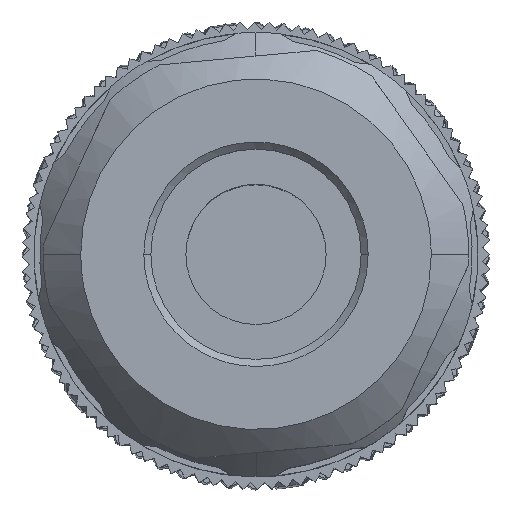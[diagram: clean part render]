
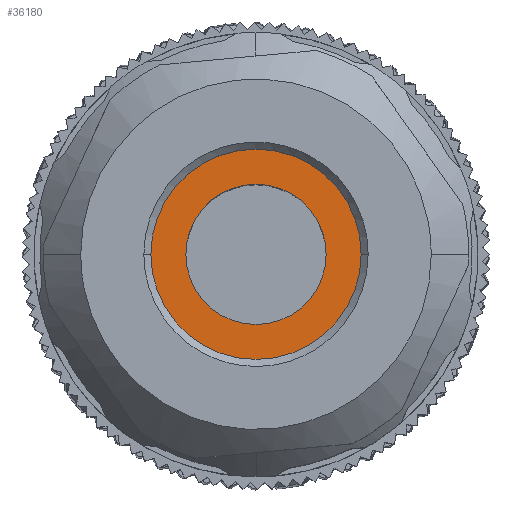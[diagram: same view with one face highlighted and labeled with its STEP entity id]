
A CAD part, top view. The second image highlights one B-rep face of the part: STEP entity #36180.
In plain terms, the highlighted planar face has unit normal (0, 0, 1).
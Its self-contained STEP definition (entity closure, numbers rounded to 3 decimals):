
#162 = EDGE_CURVE ( 'NONE', #58356, #48405, #44204, .T. ) ;
#701 = EDGE_CURVE ( 'NONE', #45619, #58944, #48024, .T. ) ;
#946 = EDGE_CURVE ( 'NONE', #60960, #45619, #43225, .T. ) ;
#976 = CARTESIAN_POINT ( 'NONE',  ( 5.401, 14.077, 62.549 ) ) ;
#2322 = CARTESIAN_POINT ( 'NONE',  ( 5.846, 9.2, 62.549 ) ) ;
#3271 = CARTESIAN_POINT ( 'NONE',  ( 0.658, 12.858, 62.549 ) ) ;
#3675 = CARTESIAN_POINT ( 'NONE',  ( 2.486, 18.013, 62.549 ) ) ;
#3879 = CARTESIAN_POINT ( 'NONE',  ( 0.535, 14.631, 62.549 ) ) ;
#3960 = EDGE_LOOP ( 'NONE', ( #5840, #12159, #23576, #49889 ) ) ;
#4872 = ORIENTED_EDGE ( 'NONE', *, *, #162, .F. ) ;
#5840 = ORIENTED_EDGE ( 'NONE', *, *, #13513, .F. ) ;
#6184 = CARTESIAN_POINT ( 'NONE',  ( 6.953, 18.766, 62.549 ) ) ;
#6670 = CARTESIAN_POINT ( 'NONE',  ( 10.088, 12.653, 62.549 ) ) ;
#6865 = CARTESIAN_POINT ( 'NONE',  ( 7.146, 9.501, 62.549 ) ) ;
#7365 = FACE_BOUND ( 'NONE', #32361, .T. ) ;
#7883 = DIRECTION ( 'NONE',  ( 1., 0., 0. ) ) ;
#8028 = CARTESIAN_POINT ( 'NONE',  ( 3.657, 18.654, 62.549 ) ) ;
#8084 = CARTESIAN_POINT ( 'NONE',  ( 5.401, 14.077, 62.549 ) ) ;
#11626 = CARTESIAN_POINT ( 'NONE',  ( 9.383, 16.895, 62.549 ) ) ;
#11642 = CARTESIAN_POINT ( 'NONE',  ( 6.29, 9.261, 62.549 ) ) ;
#11904 = CARTESIAN_POINT ( 'NONE',  ( 5.401, 9.2, 62.549 ) ) ;
#12100 = CARTESIAN_POINT ( 'NONE',  ( 1.42, 11.26, 62.549 ) ) ;
#12159 = ORIENTED_EDGE ( 'NONE', *, *, #701, .F. ) ;
#13227 = CARTESIAN_POINT ( 'NONE',  ( 1.532, 17.08, 62.549 ) ) ;
#13425 = CARTESIAN_POINT ( 'NONE',  ( 0.566, 13.297, 62.549 ) ) ;
#13513 = EDGE_CURVE ( 'NONE', #58944, #14451, #19503, .T. ) ;
#14451 = VERTEX_POINT ( 'NONE', #57713 ) ;
#15894 = DIRECTION ( 'NONE',  ( 0., 0., 1. ) ) ;
#16314 = FACE_OUTER_BOUND ( 'NONE', #3960, .T. ) ;
#17257 = CIRCLE ( 'NONE', #45234, 3. ) ;
#17361 = CARTESIAN_POINT ( 'NONE',  ( 4.513, 18.894, 62.549 ) ) ;
#17977 = CARTESIAN_POINT ( 'NONE',  ( 1.273, 16.713, 62.549 ) ) ;
#19503 = B_SPLINE_CURVE_WITH_KNOTS ( 'NONE', 3,
 ( #11904, #44978, #49790, #21411, #54519, #12100 ),
 .UNSPECIFIED., .F., .F.,
 ( 4, 2, 4 ),
 ( 0., 0.5, 1. ),
 .UNSPECIFIED. ) ;
#20743 = CARTESIAN_POINT ( 'NONE',  ( 10.145, 15.297, 62.549 ) ) ;
#21150 = CARTESIAN_POINT ( 'NONE',  ( 5.401, 9.2, 62.549 ) ) ;
#21411 = CARTESIAN_POINT ( 'NONE',  ( 2.47, 10.102, 62.549 ) ) ;
#21486 = CARTESIAN_POINT ( 'NONE',  ( 5.401, 18.955, 62.549 ) ) ;
#23576 = ORIENTED_EDGE ( 'NONE', *, *, #946, .F. ) ;
#23913 = ORIENTED_EDGE ( 'NONE', *, *, #51082, .F. ) ;
#24784 = DIRECTION ( 'NONE',  ( 1., 0., 0. ) ) ;
#25725 = CARTESIAN_POINT ( 'NONE',  ( 7.557, 9.679, 62.549 ) ) ;
#25898 = EDGE_CURVE ( 'NONE', #14451, #60960, #50952, .T. ) ;
#27480 = CARTESIAN_POINT ( 'NONE',  ( 4.957, 18.955, 62.549 ) ) ;
#27686 = CARTESIAN_POINT ( 'NONE',  ( 1.163, 11.622, 62.549 ) ) ;
#28429 = AXIS2_PLACEMENT_3D ( 'NONE', #976, #15894, #24784 ) ;
#29767 = CARTESIAN_POINT ( 'NONE',  ( 8.332, 18.053, 62.549 ) ) ;
#30449 = CARTESIAN_POINT ( 'NONE',  ( 9.938, 12.23, 62.549 ) ) ;
#30656 = CARTESIAN_POINT ( 'NONE',  ( 9.64, 16.532, 62.549 ) ) ;
#30874 = CARTESIAN_POINT ( 'NONE',  ( 10.298, 13.971, 62.549 ) ) ;
#32361 = EDGE_LOOP ( 'NONE', ( #4872, #23913 ) ) ;
#32444 = CARTESIAN_POINT ( 'NONE',  ( 0.715, 15.501, 62.549 ) ) ;
#34310 = CARTESIAN_POINT ( 'NONE',  ( 8.935, 17.528, 62.549 ) ) ;
#36180 = ADVANCED_FACE ( 'NONE', ( #16314, #7365 ), #40344, .F. ) ;
#36447 = CARTESIAN_POINT ( 'NONE',  ( 5.401, 18.955, 62.549 ) ) ;
#36962 = CARTESIAN_POINT ( 'NONE',  ( 3.245, 18.475, 62.549 ) ) ;
#39730 = CARTESIAN_POINT ( 'NONE',  ( 9.271, 11.074, 62.549 ) ) ;
#40344 = PLANE ( 'NONE',  #59153 ) ;
#40942 = CARTESIAN_POINT ( 'NONE',  ( 5.401, 14.077, 62.549 ) ) ;
#41094 = CARTESIAN_POINT ( 'NONE',  ( 1.42, 11.26, 62.549 ) ) ;
#41508 = CARTESIAN_POINT ( 'NONE',  ( 0.505, 14.183, 62.549 ) ) ;
#43225 = B_SPLINE_CURVE_WITH_KNOTS ( 'NONE', 3,
 ( #21486, #59357, #6184, #29767, #34310, #43828 ),
 .UNSPECIFIED., .F., .F.,
 ( 4, 2, 4 ),
 ( 0., 0.5, 1. ),
 .UNSPECIFIED. ) ;
#43289 = CARTESIAN_POINT ( 'NONE',  ( 9.383, 16.895, 62.549 ) ) ;
#43828 = CARTESIAN_POINT ( 'NONE',  ( 9.383, 16.895, 62.549 ) ) ;
#44204 = CIRCLE ( 'NONE', #28429, 3. ) ;
#44717 = CARTESIAN_POINT ( 'NONE',  ( 9.529, 11.441, 62.549 ) ) ;
#44978 = CARTESIAN_POINT ( 'NONE',  ( 4.625, 9.2, 62.549 ) ) ;
#45234 = AXIS2_PLACEMENT_3D ( 'NONE', #8084, #60220, #7883 ) ;
#45619 = VERTEX_POINT ( 'NONE', #11626 ) ;
#46733 = CARTESIAN_POINT ( 'NONE',  ( 8.401, 14.077, 62.549 ) ) ;
#48024 = B_SPLINE_CURVE_WITH_KNOTS ( 'NONE', 3,
 ( #43289, #30656, #49123, #20743, #54067, #30874, #58612, #6670, #30449, #44717, #39730, #49331, #53866, #25725, #6865, #11642, #2322, #21150 ),
 .UNSPECIFIED., .F., .F.,
 ( 4, 2, 2, 2, 2, 2, 2, 2, 4 ),
 ( 0., 0.125, 0.25, 0.375, 0.5, 0.625, 0.75, 0.875, 1. ),
 .UNSPECIFIED. ) ;
#48405 = VERTEX_POINT ( 'NONE', #53182 ) ;
#49123 = CARTESIAN_POINT ( 'NONE',  ( 9.846, 16.134, 62.549 ) ) ;
#49331 = CARTESIAN_POINT ( 'NONE',  ( 8.664, 10.425, 62.549 ) ) ;
#49790 = CARTESIAN_POINT ( 'NONE',  ( 3.849, 9.388, 62.549 ) ) ;
#49889 = ORIENTED_EDGE ( 'NONE', *, *, #25898, .F. ) ;
#49929 = DIRECTION ( 'NONE',  ( 0., 0., -1. ) ) ;
#50217 = CARTESIAN_POINT ( 'NONE',  ( 5.401, 9.2, 62.549 ) ) ;
#50468 = CARTESIAN_POINT ( 'NONE',  ( 5.401, 18.955, 62.549 ) ) ;
#50537 = DIRECTION ( 'NONE',  ( 0., 1., 0. ) ) ;
#50952 = B_SPLINE_CURVE_WITH_KNOTS ( 'NONE', 3,
 ( #41094, #27686, #59959, #3271, #13425, #41508, #3879, #32444, #51315, #17977, #13227, #60382, #3675, #36962, #8028, #17361, #27480, #50468 ),
 .UNSPECIFIED., .F., .F.,
 ( 4, 2, 2, 2, 2, 2, 2, 2, 4 ),
 ( 0., 0.125, 0.25, 0.375, 0.5, 0.625, 0.75, 0.875, 1. ),
 .UNSPECIFIED. ) ;
#51082 = EDGE_CURVE ( 'NONE', #48405, #58356, #17257, .T. ) ;
#51315 = CARTESIAN_POINT ( 'NONE',  ( 0.865, 15.924, 62.549 ) ) ;
#53182 = CARTESIAN_POINT ( 'NONE',  ( 2.401, 14.077, 62.549 ) ) ;
#53866 = CARTESIAN_POINT ( 'NONE',  ( 8.317, 10.141, 62.549 ) ) ;
#54067 = CARTESIAN_POINT ( 'NONE',  ( 10.237, 14.858, 62.549 ) ) ;
#54519 = CARTESIAN_POINT ( 'NONE',  ( 1.868, 10.626, 62.549 ) ) ;
#57713 = CARTESIAN_POINT ( 'NONE',  ( 1.42, 11.26, 62.549 ) ) ;
#58356 = VERTEX_POINT ( 'NONE', #46733 ) ;
#58612 = CARTESIAN_POINT ( 'NONE',  ( 10.268, 13.523, 62.549 ) ) ;
#58944 = VERTEX_POINT ( 'NONE', #50217 ) ;
#59153 = AXIS2_PLACEMENT_3D ( 'NONE', #40942, #49929, #50537 ) ;
#59357 = CARTESIAN_POINT ( 'NONE',  ( 6.178, 18.955, 62.549 ) ) ;
#59959 = CARTESIAN_POINT ( 'NONE',  ( 0.956, 12.02, 62.549 ) ) ;
#60220 = DIRECTION ( 'NONE',  ( 0., 0., 1. ) ) ;
#60382 = CARTESIAN_POINT ( 'NONE',  ( 2.138, 17.73, 62.549 ) ) ;
#60960 = VERTEX_POINT ( 'NONE', #36447 ) ;
